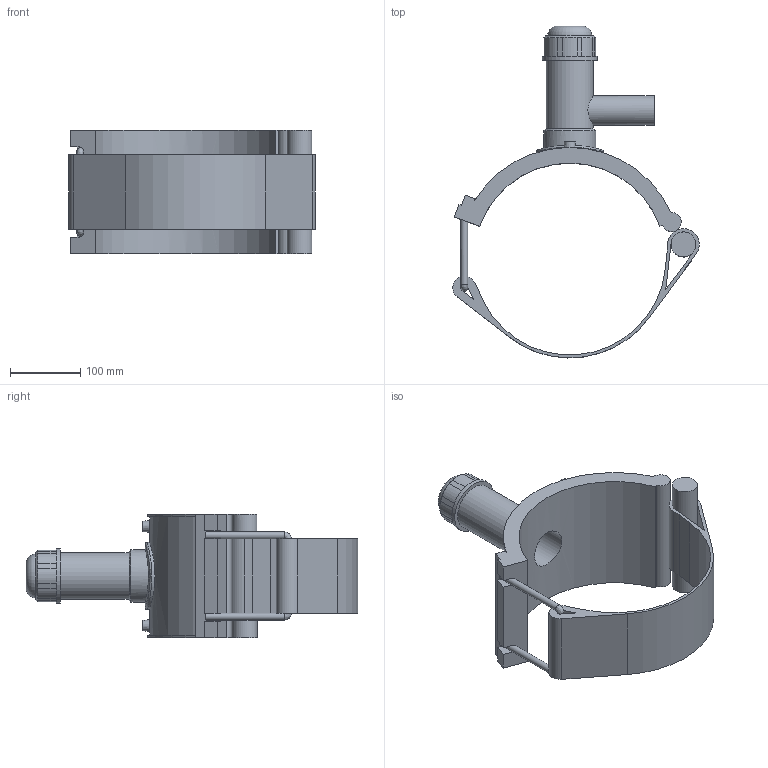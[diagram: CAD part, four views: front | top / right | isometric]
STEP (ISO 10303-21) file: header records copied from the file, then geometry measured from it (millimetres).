
FILE_DESCRIPTION(/* description */ ('PLASSON HIGH VOLUME TAPPING TEE 10''''IPS x 1 1/4''''IPS'),/* implementation_level */ '2;1');
FILE_NAME(/* name */ 'C:\Dropbox\KIMPROJECTS-Inventor 2019\99-16-3568-Processing Inch\ASTM ElectroFusion 2021\5913B\5913BB03100013.ipt.stp',/* time_stamp */ '2021-08-30T09:50:38+03:00',/* author */ ('KIM'),/* organization */ (''),/* preprocessor_version */ 'ST-DEVELOPER v17.2',/* originating_system */ 'Autodesk Inventor 2019',/* authorisation */ '');
FILE_SCHEMA (('AUTOMOTIVE_DESIGN { 1 0 10303 214 3 1 1 }'));
Length unit declared in the file: millimetre
Products named in the file (1): 5913BB03100013
Bounding box: 350.33 x 471.58 x 176.02 mm (x, y, z)
Volume: 2353321.8 mm3; surface area: 412596.6 mm2
Topology: 1 solids, 1 shells, 126 faces, 333 edges, 210 vertices
Faces by surface type: plane 69, cylinder 42, cone 11, bspline 3, torus 1
Full cylindrical faces by diameter (mm): 4 x2, 9.817 x2, 10 x2, 33.68 x1, 35.451 x1, 42.1 x1, 54.785 x1, 62.612 x1, 66.525 x1, 74.352 x1, 78.265 x1, 95.445 x1
Entity records: 4532 total; most frequent: CARTESIAN_POINT 1296, DIRECTION 678, ORIENTED_EDGE 664, EDGE_CURVE 332, AXIS2_PLACEMENT_3D 245, VERTEX_POINT 210, LINE 188, VECTOR 188
